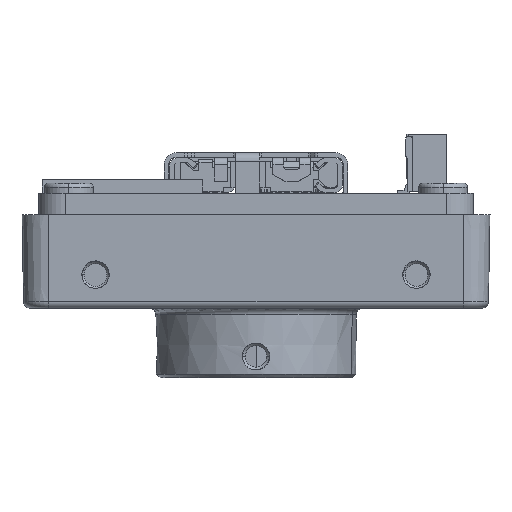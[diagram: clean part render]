
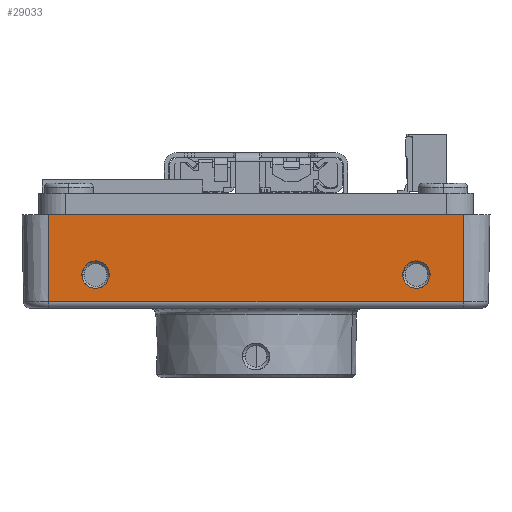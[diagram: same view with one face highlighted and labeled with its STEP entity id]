
A CAD part, left-side view. The second image highlights one B-rep face of the part: STEP entity #29033.
In plain terms, the highlighted planar face has unit normal (-1, 0, -0.018).
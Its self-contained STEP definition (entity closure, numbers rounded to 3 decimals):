
#1906=DIRECTION('',(0.,1.,0.));
#1907=VECTOR('',#1906,31.);
#1908=CARTESIAN_POINT('',(-17.386,-15.5,
0.491));
#1909=LINE('',#1908,#1907);
#1910=DIRECTION('',(-0.017,0.,1.));
#1911=VECTOR('',#1910,6.51);
#1912=CARTESIAN_POINT('',(-17.386,15.5,
0.491));
#1913=LINE('',#1912,#1911);
#1914=DIRECTION('',(0.,-1.,0.));
#1915=VECTOR('',#1914,31.);
#1916=CARTESIAN_POINT('',(-17.5,15.5,7.));
#1917=LINE('',#1916,#1915);
#1923=DIRECTION('',(-0.017,0.,1.));
#1924=VECTOR('',#1923,6.51);
#1925=CARTESIAN_POINT('',(-17.386,-15.5,
0.491));
#1926=LINE('',#1925,#1924);
#2473=CARTESIAN_POINT('',(-17.421,-13.021,
2.5));
#2474=CARTESIAN_POINT('',(-17.42,-13.02,
2.416));
#2475=CARTESIAN_POINT('',(-17.417,-12.998,
2.269));
#2476=CARTESIAN_POINT('',(-17.413,-12.908,
2.02));
#2477=CARTESIAN_POINT('',(-17.409,-12.73,
1.775));
#2478=CARTESIAN_POINT('',(-17.406,-12.482,
1.601));
#2479=CARTESIAN_POINT('',(-17.404,-12.232,
1.516));
#2480=CARTESIAN_POINT('',(-17.404,-12.084,
1.496));
#2481=CARTESIAN_POINT('',(-17.404,-12.,1.496));
#2483=CARTESIAN_POINT('',(-17.404,-12.,1.496));
#2484=CARTESIAN_POINT('',(-17.404,-11.916,
1.496));
#2485=CARTESIAN_POINT('',(-17.404,-11.768,
1.516));
#2486=CARTESIAN_POINT('',(-17.406,-11.518,
1.601));
#2487=CARTESIAN_POINT('',(-17.409,-11.27,
1.775));
#2488=CARTESIAN_POINT('',(-17.413,-11.092,
2.02));
#2489=CARTESIAN_POINT('',(-17.417,-11.002,
2.269));
#2490=CARTESIAN_POINT('',(-17.42,-10.98,
2.416));
#2491=CARTESIAN_POINT('',(-17.421,-10.979,
2.5));
#2501=CARTESIAN_POINT('',(-17.421,-10.979,
2.5));
#2502=CARTESIAN_POINT('',(-17.424,-10.976,
2.621));
#2503=CARTESIAN_POINT('',(-17.428,-11.016,
2.885));
#2504=CARTESIAN_POINT('',(-17.434,-11.21,
3.194));
#2505=CARTESIAN_POINT('',(-17.437,-11.432,
3.376));
#2506=CARTESIAN_POINT('',(-17.438,-11.619,
3.473));
#2507=CARTESIAN_POINT('',(-17.439,-11.781,
3.519));
#2508=CARTESIAN_POINT('',(-17.44,-11.908,
3.537));
#2509=CARTESIAN_POINT('',(-17.44,-12.,
3.541));
#2510=CARTESIAN_POINT('',(-17.44,-12.092,
3.537));
#2511=CARTESIAN_POINT('',(-17.439,-12.219,
3.519));
#2512=CARTESIAN_POINT('',(-17.438,-12.381,
3.473));
#2513=CARTESIAN_POINT('',(-17.437,-12.568,
3.376));
#2514=CARTESIAN_POINT('',(-17.434,-12.79,
3.194));
#2515=CARTESIAN_POINT('',(-17.428,-12.984,
2.885));
#2516=CARTESIAN_POINT('',(-17.424,-13.024,
2.621));
#2517=CARTESIAN_POINT('',(-17.421,-13.021,
2.5));
#2552=CARTESIAN_POINT('',(-17.421,10.979,2.5));
#2553=CARTESIAN_POINT('',(-17.42,10.98,2.416));
#2554=CARTESIAN_POINT('',(-17.417,11.002,2.269));
#2555=CARTESIAN_POINT('',(-17.413,11.092,2.02));
#2556=CARTESIAN_POINT('',(-17.409,11.27,1.775));
#2557=CARTESIAN_POINT('',(-17.406,11.518,1.601));
#2558=CARTESIAN_POINT('',(-17.404,11.768,1.516));
#2559=CARTESIAN_POINT('',(-17.404,11.916,1.496));
#2560=CARTESIAN_POINT('',(-17.404,12.,1.496));
#2562=CARTESIAN_POINT('',(-17.404,12.,1.496));
#2563=CARTESIAN_POINT('',(-17.404,12.084,1.496));
#2564=CARTESIAN_POINT('',(-17.404,12.232,1.516));
#2565=CARTESIAN_POINT('',(-17.406,12.482,1.601));
#2566=CARTESIAN_POINT('',(-17.409,12.73,1.775));
#2567=CARTESIAN_POINT('',(-17.413,12.908,2.02));
#2568=CARTESIAN_POINT('',(-17.417,12.998,2.269));
#2569=CARTESIAN_POINT('',(-17.42,13.02,2.416));
#2570=CARTESIAN_POINT('',(-17.421,13.021,2.5));
#2572=CARTESIAN_POINT('',(-17.421,13.021,2.5));
#2573=CARTESIAN_POINT('',(-17.424,13.024,2.621));
#2574=CARTESIAN_POINT('',(-17.428,12.984,2.885));
#2575=CARTESIAN_POINT('',(-17.434,12.79,3.194));
#2576=CARTESIAN_POINT('',(-17.437,12.568,3.376));
#2577=CARTESIAN_POINT('',(-17.438,12.381,3.473));
#2578=CARTESIAN_POINT('',(-17.439,12.219,3.519));
#2579=CARTESIAN_POINT('',(-17.44,12.092,3.537));
#2580=CARTESIAN_POINT('',(-17.44,12.,3.541));
#2581=CARTESIAN_POINT('',(-17.44,11.908,3.537));
#2582=CARTESIAN_POINT('',(-17.439,11.781,3.519));
#2583=CARTESIAN_POINT('',(-17.438,11.619,3.473));
#2584=CARTESIAN_POINT('',(-17.437,11.432,3.376));
#2585=CARTESIAN_POINT('',(-17.434,11.21,3.194));
#2586=CARTESIAN_POINT('',(-17.428,11.016,2.885));
#2587=CARTESIAN_POINT('',(-17.424,10.976,2.621));
#2588=CARTESIAN_POINT('',(-17.421,10.979,2.5));
#26059=CARTESIAN_POINT('',(-17.5,15.5,7.));
#26061=VERTEX_POINT('',#26059);
#26073=CARTESIAN_POINT('',(-17.5,-15.5,7.));
#26074=VERTEX_POINT('',#26073);
#26080=CARTESIAN_POINT('',(-17.386,15.5,0.491));
#26082=VERTEX_POINT('',#26080);
#26364=CARTESIAN_POINT('',(-17.386,-15.5,0.491));
#26365=VERTEX_POINT('',#26364);
#26366=VERTEX_POINT('',#2562);
#26367=VERTEX_POINT('',#2570);
#26368=VERTEX_POINT('',#2552);
#26369=VERTEX_POINT('',#2483);
#26370=VERTEX_POINT('',#2491);
#26371=VERTEX_POINT('',#2473);
#29005=CARTESIAN_POINT('',(-17.443,0.,3.746));
#29006=DIRECTION('',(1.,0.,0.017));
#29007=DIRECTION('',(0.,-1.,0.));
#29008=AXIS2_PLACEMENT_3D('',#29005,#29006,#29007);
#29009=PLANE('',#29008);
#29010=ORIENTED_EDGE('',*,*,#28999,.T.);
#29011=ORIENTED_EDGE('',*,*,#28848,.T.);
#29012=ORIENTED_EDGE('',*,*,#28772,.T.);
#29014=ORIENTED_EDGE('',*,*,#29013,.F.);
#29015=EDGE_LOOP('',(#29010,#29011,#29012,#29014));
#29016=FACE_OUTER_BOUND('',#29015,.F.);
#29018=ORIENTED_EDGE('',*,*,#29017,.F.);
#29020=ORIENTED_EDGE('',*,*,#29019,.F.);
#29022=ORIENTED_EDGE('',*,*,#29021,.F.);
#29023=EDGE_LOOP('',(#29018,#29020,#29022));
#29024=FACE_BOUND('',#29023,.F.);
#29026=ORIENTED_EDGE('',*,*,#29025,.F.);
#29028=ORIENTED_EDGE('',*,*,#29027,.F.);
#29030=ORIENTED_EDGE('',*,*,#29029,.F.);
#29031=EDGE_LOOP('',(#29026,#29028,#29030));
#29032=FACE_BOUND('',#29031,.F.);
#29033=ADVANCED_FACE('',(#29016,#29024,#29032),#29009,.F.);
#2482=B_SPLINE_CURVE_WITH_KNOTS('',3,(#2473,#2474,#2475,#2476,#2477,#2478,#2479,
#2480,#2481),.UNSPECIFIED.,.F.,.F.,(4,1,1,1,1,1,4),(0.,0.125,0.25,0.5,
0.75,0.875,1.),.UNSPECIFIED.);
#2492=B_SPLINE_CURVE_WITH_KNOTS('',3,(#2483,#2484,#2485,#2486,#2487,#2488,#2489,
#2490,#2491),.UNSPECIFIED.,.F.,.F.,(4,1,1,1,1,1,4),(0.,0.125,0.25,0.5,
0.75,0.875,1.),.UNSPECIFIED.);
#2518=B_SPLINE_CURVE_WITH_KNOTS('',3,(#2501,#2502,#2503,#2504,#2505,#2506,#2507,
#2508,#2509,#2510,#2511,#2512,#2513,#2514,#2515,#2516,#2517),.UNSPECIFIED.,.F.,
.F.,(4,1,1,1,1,1,1,1,1,1,1,1,1,1,4),(0.,0.125,0.25,0.313,0.375,
0.438,0.469,0.5,0.531,0.563,0.625,0.688,0.75,0.875,
1.),.UNSPECIFIED.);
#2561=B_SPLINE_CURVE_WITH_KNOTS('',3,(#2552,#2553,#2554,#2555,#2556,#2557,#2558,
#2559,#2560),.UNSPECIFIED.,.F.,.F.,(4,1,1,1,1,1,4),(0.,0.125,0.25,0.5,
0.75,0.875,1.),.UNSPECIFIED.);
#2571=B_SPLINE_CURVE_WITH_KNOTS('',3,(#2562,#2563,#2564,#2565,#2566,#2567,#2568,
#2569,#2570),.UNSPECIFIED.,.F.,.F.,(4,1,1,1,1,1,4),(0.,0.125,0.25,0.5,
0.75,0.875,1.),.UNSPECIFIED.);
#2589=B_SPLINE_CURVE_WITH_KNOTS('',3,(#2572,#2573,#2574,#2575,#2576,#2577,#2578,
#2579,#2580,#2581,#2582,#2583,#2584,#2585,#2586,#2587,#2588),.UNSPECIFIED.,.F.,
.F.,(4,1,1,1,1,1,1,1,1,1,1,1,1,1,4),(0.,0.125,0.25,0.313,0.375,
0.438,0.469,0.5,0.531,0.563,0.625,0.688,0.75,0.875,
1.),.UNSPECIFIED.);
#28772=EDGE_CURVE('',#26061,#26074,#1917,.T.);
#28848=EDGE_CURVE('',#26082,#26061,#1913,.T.);
#28999=EDGE_CURVE('',#26365,#26082,#1909,.T.);
#29013=EDGE_CURVE('',#26365,#26074,#1926,.T.);
#29017=EDGE_CURVE('',#26369,#26370,#2492,.T.);
#29019=EDGE_CURVE('',#26371,#26369,#2482,.T.);
#29021=EDGE_CURVE('',#26370,#26371,#2518,.T.);
#29025=EDGE_CURVE('',#26366,#26367,#2571,.T.);
#29027=EDGE_CURVE('',#26368,#26366,#2561,.T.);
#29029=EDGE_CURVE('',#26367,#26368,#2589,.T.);
